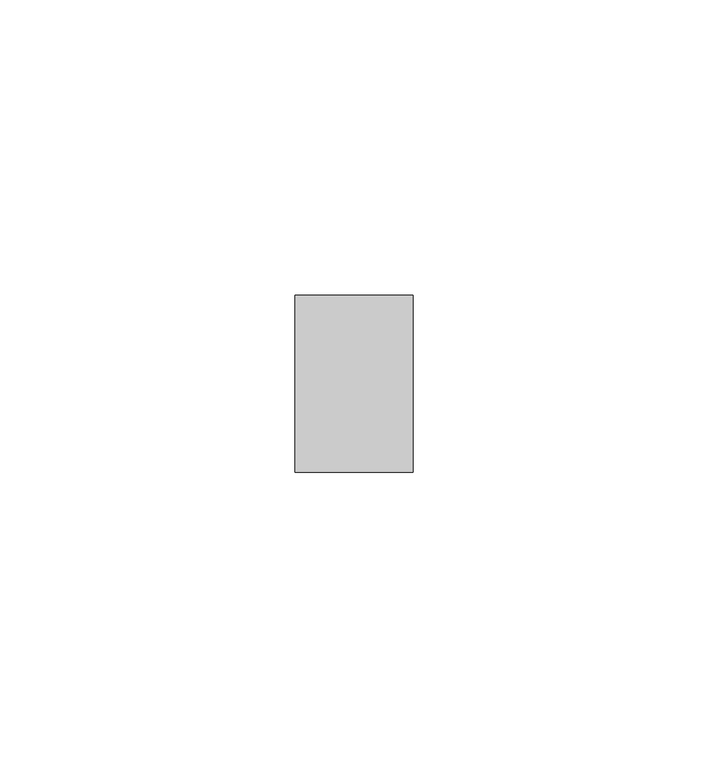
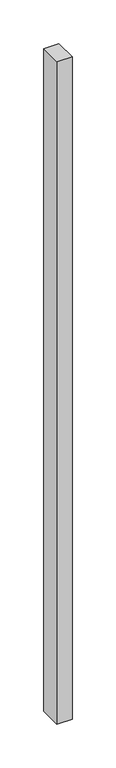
"""IFC4 building model written with IfcOpenShell, lengths in millimetres: member geometry, Прямоугольный импост : Квадрат 10 мм - Зазор между навесными плитами."""

from ifc_helpers import new_model, si_unit, frame, origin, place, context, project, spatial, polyline, outline, extrude, source, transform, mapped, element, save


def member_cfc559d8(model_context):
    return source(origin(), model_context, "Body", "SweptSolid", [
        extrude(outline(polyline([(0.0, 15.0), (0.0, -15.0), (-20.0, -15.0), (-20.0, 15.0), (0.0, 15.0)])), frame((0.0, 0.0, -924.5), z_axis=(0.0, 0.0, 1.0), x_axis=(1.0, 0.0, 0.0)), (0.0, 0.0, 1.0), 924.5),
    ])


if __name__ == "__main__":
    model = new_model("IFC4")
    model_context = context("Model", 3, world=origin())
    ifc_project = project(units=[si_unit("LENGTHUNIT", "METRE", prefix="MILLI")], contexts=[model_context])
    site = spatial("IfcSite", under=ifc_project)
    building = spatial("IfcBuilding", under=site)
    placement = place(None, origin())
    member_shape = member_cfc559d8(model_context)
    element("IfcMember", 1, ObjectType="Прямоугольный импост : Квадрат 10 мм - Зазор между навесными плитами", at=placement, inside=building, context=model_context, shape_type="MappedRepresentation", body=[
        mapped(member_shape, transform((0.0, 0.0, 0.0), x_axis=(1.0, 0.0, 0.0), y_axis=(0.0, 1.0, 0.0), z_axis=(0.0, 0.0, 1.0))),
    ])
    save(model, "model.ifc")
